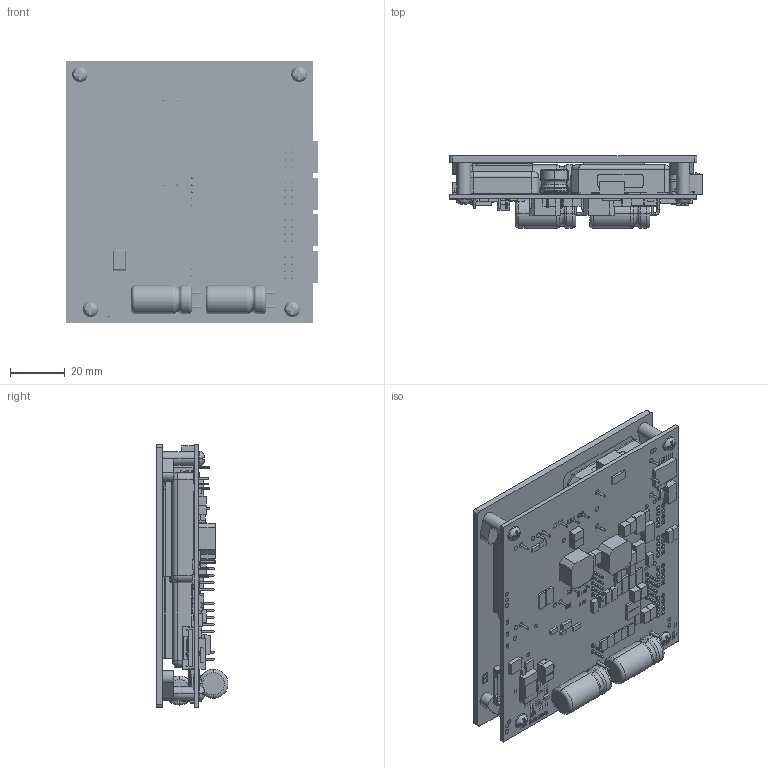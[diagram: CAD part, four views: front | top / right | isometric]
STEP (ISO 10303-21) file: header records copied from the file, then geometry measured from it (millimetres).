
FILE_DESCRIPTION((''),'2;1');
FILE_NAME('6880730_REVB_HS_ASSY_ASM','2019-02-01T',('user'),(''),'PRO/ENGINEER BY PARAMETRIC TECHNOLOGY CORPORATION, 2012130','PRO/ENGINEER BY PARAMETRIC TECHNOLOGY CORPORATION, 2012130','');
FILE_SCHEMA(('CONFIG_CONTROL_DESIGN'));
Length unit declared in the file: inch
Products named in the file (133): 6880730_REVB; 7110730_UPS_POWERSUPPLY_REV1; SOT23-6-57M; MH250X125GND; SAMTEC-IPL1-104-01-L-D-RA-K; MANIFOLD_SOLID_BREP_206; MANIFOLD_SOLID_BREP_207; MANIFOLD_SOLID_BREP_208; MANIFOLD_SOLID_BREP_209; MANIFOLD_SOLID_BREP_210; MANIFOLD_SOLID_BREP_211; MANIFOLD_SOLID_BREP_212; MANIFOLD_SOLID_BREP_213; MANIFOLD_SOLID_BREP_214; MANIFOLD_SOLID_BREP_215; MANIFOLD_SOLID_BREP_216; MANIFOLD_SOLID_BREP_217; MANIFOLD_SOLID_BREP_218; MANIFOLD_SOLID_BREP_219; MANIFOLD_SOLID_BREP_220; MANIFOLD_SOLID_BREP_221; MANIFOLD_SOLID_BREP_222; MANIFOLD_SOLID_BREP_223; MANIFOLD_SOLID_BREP_224; MANIFOLD_SOLID_BREP_225; MANIFOLD_SOLID_BREP_226; MANIFOLD_SOLID_BREP_227; MANIFOLD_SOLID_BREP_228; MANIFOLD_SOLID_BREP_229; MANIFOLD_SOLID_BREP_230; MANIFOLD_SOLID_BREP_231; ADMI867EOQHR_ASM; SRP_7028A_SERIES_ASM; SW3DPS-QFN-38_EXTRUDED20; SW3DPS-QFN-38_453495249_ASM; SW3DPS-QFN-38_EXTRUDED28; SW3DPS-QFN-38_453495505_ASM; SW3DPS-QFN-38_EXTRUDED19; SW3DPS-QFN-38_453496017_ASM; SW3DPS-QFN-38_EXTRUDED25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
Assembly tree (456 placements, depth 5):
  6880730_REVB_HS_ASSY_ASM
    6880730_REVB
    7110730_UPS_POWERSUPPLY_REV1_ASM
      7110730_UPS_POWERSUPPLY_REV1
      SOT23-6-57M
      MH250X125GND  x4
      SAMTEC-IPL1-104-01-L-D-RA-K  x4
      SRP_7028A_SERIES_ASM
        ADMI867EOQHR_ASM
          MANIFOLD_SOLID_BREP_206
          MANIFOLD_SOLID_BREP_207
          MANIFOLD_SOLID_BREP_208
          MANIFOLD_SOLID_BREP_209
          MANIFOLD_SOLID_BREP_210
          MANIFOLD_SOLID_BREP_211
          MANIFOLD_SOLID_BREP_212
          MANIFOLD_SOLID_BREP_213
          MANIFOLD_SOLID_BREP_214
          MANIFOLD_SOLID_BREP_215
          MANIFOLD_SOLID_BREP_216
          MANIFOLD_SOLID_BREP_217
          MANIFOLD_SOLID_BREP_218
          MANIFOLD_SOLID_BREP_219
          MANIFOLD_SOLID_BREP_220
          MANIFOLD_SOLID_BREP_221
          MANIFOLD_SOLID_BREP_222
          MANIFOLD_SOLID_BREP_223
          MANIFOLD_SOLID_BREP_224
          MANIFOLD_SOLID_BREP_225
          MANIFOLD_SOLID_BREP_226
          MANIFOLD_SOLID_BREP_227
          MANIFOLD_SOLID_BREP_228
          MANIFOLD_SOLID_BREP_229
          MANIFOLD_SOLID_BREP_230
          MANIFOLD_SOLID_BREP_231
      SW3DPS-QFN-38_ASM
        SW3DPS-QFN-38_453495249_ASM  x38
          SW3DPS-QFN-38_EXTRUDED20
        SW3DPS-QFN-38_453495505_ASM  x12
          SW3DPS-QFN-38_EXTRUDED28
        SW3DPS-QFN-38_453496017_ASM  x12
          SW3DPS-QFN-38_EXTRUDED19
        SW3DPS-QFN-38_453494609_ASM
          SW3DPS-QFN-38_EXTRUDED25
        SW3DPS-QFN-38_453495121_ASM  x38
          SW3DPS-QFN-38_EXTRUDED23
        SW3DPS-QFN-38_453494993_ASM  x7
          SW3DPS-QFN-38_EXTRUDED29
        SW3DPS-QFN-38_453495377_ASM  x7
          SW3DPS-QFN-38_EXTRUDED22
        SW3DPS-QFN-38_453496529_ASM
          SW3DPS-QFN-38_EXTRUDED17
        SW3DPS-QFN-38_453494481_ASM
          SW3DPS-QFN-38_EXTRUDED18
        SW3DPS-QFN-38_453494737_ASM
          SW3DPS-QFN-38_EXTRUDED21
        SW3DPS-QFN-38_453494865_ASM
          SW3DPS-QFN-38_EXTRUDED24
        SW3DPS-QFN-38_453494353_ASM
          SW3DPS-QFN-38_EXTRUDED16
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Bounding box: 92.08 x 26.25 x 95.89 mm (x, y, z)
Volume: 148874.7 mm3; surface area: 190746.6 mm2
Topology: 443 solids, 467 shells, 8724 faces, 22343 edges, 14783 vertices
Faces by surface type: plane 6624, cylinder 1596, extrusion 182, torus 172, bspline 107, cone 32, sphere 11
Entity records: 170270 total; most frequent: CARTESIAN_POINT 41609, DIRECTION 25946, ORIENTED_EDGE 25658, EDGE_CURVE 12881, VECTOR 9726, LINE 9544, VERTEX_POINT 8589, AXIS2_PLACEMENT_3D 8110
